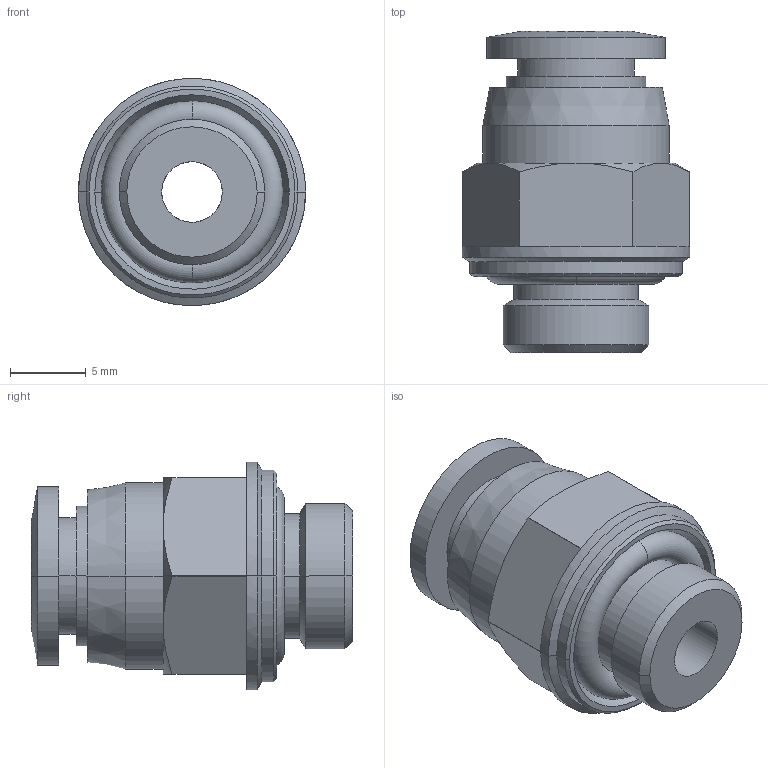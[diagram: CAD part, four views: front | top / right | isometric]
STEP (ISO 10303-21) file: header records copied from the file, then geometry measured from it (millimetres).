
FILE_DESCRIPTION (( 'STEP AP203' ), '1' );
FILE_NAME ('FH06-01.STEP', '2020-04-28T13:35:00', ( '' ), ( '' ), 'SwSTEP 2.0', 'SolidWorks 2019', '' );
FILE_SCHEMA (( 'CONFIG_CONTROL_DESIGN' ));
Length unit declared in the file: millimetre
Products named in the file (1): FH06-01
Bounding box: 15 x 21.2 x 15 mm (x, y, z)
Surface area: 1850.7 mm2 (no closed solid volume)
Topology: 0 solids, 4 shells, 71 faces, 164 edges, 103 vertices
Faces by surface type: cylinder 22, plane 22, cone 21, torus 6
Entity records: 3208 total; most frequent: CARTESIAN_POINT 1769, ORIENTED_EDGE 312, DIRECTION 193, EDGE_CURVE 164, B_SPLINE_CURVE_WITH_KNOTS 121, VERTEX_POINT 103, EDGE_LOOP 81, AXIS2_PLACEMENT_3D 78
